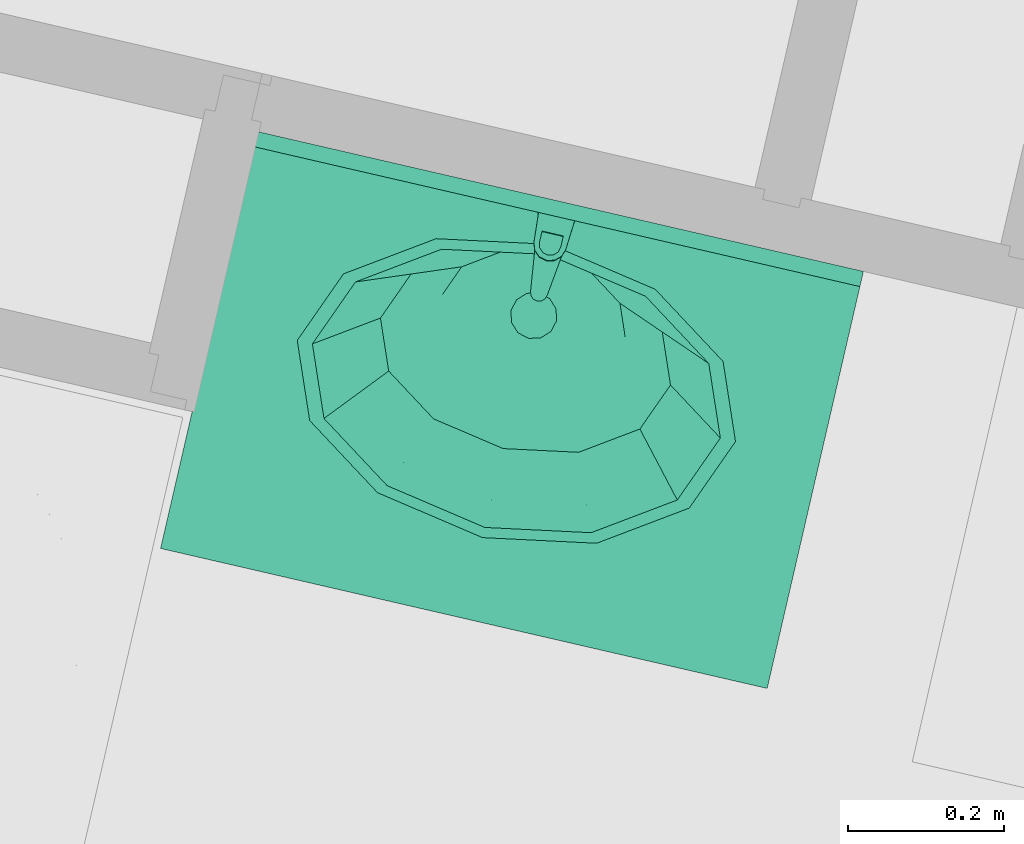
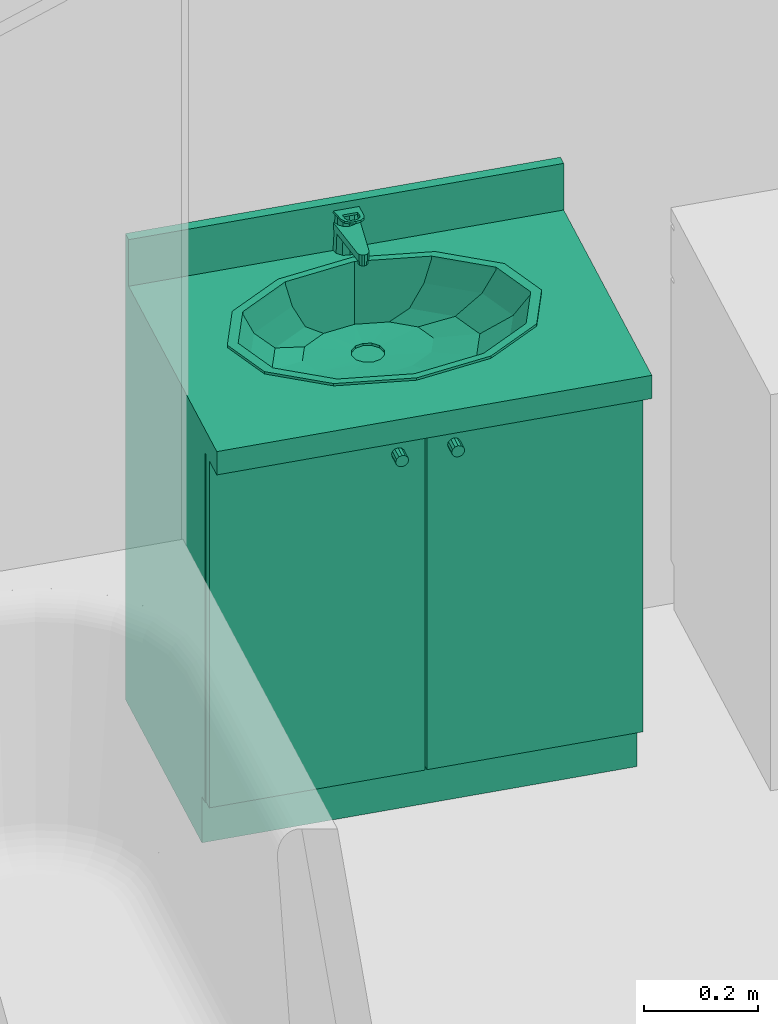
# One storey, part 78 of 90: 1 flow terminal.
"""IFC2X3 building model written with IfcOpenShell, lengths in metres."""

import ifcopenshell
import ifcopenshell.guid

model = None  # the IFC model being written
_history = None  # IfcOwnerHistory: only IFC2X3 demands one
_inside = {}  # id of a spatial element -> (the spatial element, [elements in it])
_under = {}  # id of a project, library or spatial element -> (it, [spatial elements below it])
_declared = {}  # id of a project -> (the project, [libraries it declares])
_typed = {}  # id of a type object -> (the type object, [elements of that type])
_made_of = {}  # id of a material, layer set ... -> (it, [elements and type objects made of it])


def new_model(schema):
    """Start an empty IFC model of exactly this schema.

    Asked for "IFC4X3", IfcOpenShell would pick the latest addendum, in which some entities
    have other attributes; the version numbers below select the first issue.
    IFC2X3 requires an IfcOwnerHistory on every rooted entity: one is made here for all.
    """
    global model, _history
    if schema == "IFC4X3":
        model = ifcopenshell.file(schema_version=(4, 3, 0, 0))
    else:
        model = ifcopenshell.file(schema=schema)
    _inside.clear()
    _under.clear()
    _declared.clear()
    _typed.clear()
    _made_of.clear()
    _history = None
    if model.schema == "IFC2X3":
        org = make("IfcOrganization", Name="unknown")
        user = make(
            "IfcPersonAndOrganization",
            ThePerson=make("IfcPerson", FamilyName="unknown"),
            TheOrganization=org,
        )
        app = make(
            "IfcApplication",
            ApplicationDeveloper=org,
            Version="unknown",
            ApplicationFullName="unknown",
            ApplicationIdentifier="unknown",
        )
        _history = make(
            "IfcOwnerHistory",
            OwningUser=user,
            OwningApplication=app,
            ChangeAction="ADDED",
            CreationDate=0,
        )
    return model


def make(cls, **values):
    """One entity of the class cls with the attributes given. An attribute that is None is left unset."""
    return model.create_entity(
        cls, **{name: value for name, value in values.items() if value is not None}
    )


def entity(cls, *values):
    """Any entity or typed value of the class cls, its attributes in the order of the schema. None: left unset."""
    e = model.create_entity(cls)
    for i, value in enumerate(values):
        if value is not None:
            e[i] = value
    return e


def rooted(cls, **values):
    """An entity with a GlobalId (a new one), such as an element, a storey or a relation."""
    return make(cls, GlobalId=ifcopenshell.guid.new(), OwnerHistory=_history, **values)


def si_unit(unit_type, name, prefix=None):
    """IfcSIUnit, for example si_unit("LENGTHUNIT", "METRE", prefix="MILLI")."""
    return make("IfcSIUnit", UnitType=unit_type, Prefix=prefix, Name=name)


def converted_unit(unit_type, name, factor, base, dimensions=None, offset=None):
    """IfcConversionBasedUnit, such as the inch: factor (a typed value) times the base unit."""
    return make(
        "IfcConversionBasedUnit"
        if offset is None
        else "IfcConversionBasedUnitWithOffset",
        ConversionOffset=offset,
        Dimensions=None
        if dimensions is None
        else entity("IfcDimensionalExponents", *dimensions),
        UnitType=unit_type,
        Name=name,
        ConversionFactor=make(
            "IfcMeasureWithUnit", ValueComponent=factor, UnitComponent=base
        ),
    )


def derived_unit(unit_type, elements):
    """IfcDerivedUnit: a product of units, each with its exponent."""
    return make(
        "IfcDerivedUnit",
        Elements=[
            make("IfcDerivedUnitElement", Unit=unit, Exponent=power)
            for unit, power in elements
        ],
        UnitType=unit_type,
    )


def money_unit(currency):
    """IfcMonetaryUnit."""
    return make("IfcMonetaryUnit", Currency=currency)


def assignment(units):
    """IfcUnitAssignment: the units of a project."""
    return None if units is None else make("IfcUnitAssignment", Units=units)


def point(xyz):
    """IfcCartesianPoint."""
    return None if xyz is None else make("IfcCartesianPoint", Coordinates=xyz)


def direction(xyz):
    """IfcDirection."""
    return None if xyz is None else make("IfcDirection", DirectionRatios=xyz)


def frame(location, z_axis=None, x_axis=None):
    """IfcAxis2Placement3D, a coordinate frame: its origin and axes. An axis left out is left unset."""
    return make(
        "IfcAxis2Placement3D",
        Location=point(location),
        Axis=direction(z_axis),
        RefDirection=direction(x_axis),
    )


def origin_with_axes():
    """The frame at (0, 0, 0) with the z axis (0, 0, 1) and the x axis (1, 0, 0) written out."""
    return frame((0.0, 0.0, 0.0), z_axis=(0.0, 0.0, 1.0), x_axis=(1.0, 0.0, 0.0))


def place(relative_to, where):
    """IfcLocalPlacement: puts the frame where relative to a parent placement (None: the world)."""
    return make(
        "IfcLocalPlacement", PlacementRelTo=relative_to, RelativePlacement=where
    )


def context(
    kind, dimensions, precision=None, world=None, true_north=None, identifier=None
):
    """IfcGeometricRepresentationContext, for example the 3D "Model" context."""
    return make(
        "IfcGeometricRepresentationContext",
        ContextIdentifier=identifier,
        ContextType=kind,
        CoordinateSpaceDimension=dimensions,
        Precision=precision,
        WorldCoordinateSystem=world,
        TrueNorth=true_north,
    )


def subcontext(parent, identifier, kind, view, scale=None):
    """IfcGeometricRepresentationSubContext, for example "Body" below "Model"."""
    return make(
        "IfcGeometricRepresentationSubContext",
        ContextIdentifier=identifier,
        ContextType=kind,
        ParentContext=parent,
        TargetScale=scale,
        TargetView=view,
    )


def project(units=None, contexts=None):
    """IfcProject with its units and contexts."""
    return rooted(
        "IfcProject",
        Name="project",
        RepresentationContexts=contexts,
        UnitsInContext=assignment(units),
    )


def spatial(cls, under=None, at=None, **own):
    """A site, building, storey or space (cls), placed at a placement, below another one or the project."""
    s = rooted(cls, ObjectPlacement=at, **own)
    if under is not None:
        _under.setdefault(under.id(), (under, []))[1].append(s)
    return s


def faces_of(points, faces, orient=None, outer=None):
    """IfcFace entities. A face is a list of loops; a loop is a list of indices into points, from 0.

    orient and outer hold one flag for each loop. By default every Orientation is true, the
    first loop of a face is its IfcFaceOuterBound and the others are IfcFaceBound.
    """
    made = []
    for i, loops in enumerate(faces):
        bounds = []
        for j, loop in enumerate(loops):
            is_outer = j == 0 if outer is None else outer[i][j]
            bounds.append(
                make(
                    "IfcFaceOuterBound" if is_outer else "IfcFaceBound",
                    Bound=make("IfcPolyLoop", Polygon=[points[k] for k in loop]),
                    Orientation=True if orient is None else orient[i][j],
                )
            )
        made.append(make("IfcFace", Bounds=bounds))
    return made


def open_shell(faces, orient=None, outer=None):
    """The faces of one IfcOpenShell. surface_model builds it on its shared points."""
    return ("IfcOpenShell", faces, orient, outer)


def faceted_brep(points, faces, orient=None, outer=None, voids=None):
    """IfcFacetedBrep: a solid bounded by flat faces; with voids (closed shells), ...WithVoids."""
    shared = [point(p) for p in points]
    hull = make("IfcClosedShell", CfsFaces=faces_of(shared, faces, orient, outer))
    if voids is None:
        return make("IfcFacetedBrep", Outer=hull)
    return make(
        "IfcFacetedBrepWithVoids",
        Outer=hull,
        Voids=[
            make(cls, CfsFaces=faces_of(shared, fs, o, b)) for cls, fs, o, b in voids
        ],
    )


def surface_model(cls, points, shells):
    """IfcFaceBasedSurfaceModel or IfcShellBasedSurfaceModel (cls): surfaces that need not close."""
    shared = [point(p) for p in points]
    made = [make(c, CfsFaces=faces_of(shared, fs, o, b)) for c, fs, o, b in shells]
    if cls == "IfcFaceBasedSurfaceModel":
        return make(cls, FbsmFaces=made)
    return make(cls, SbsmBoundary=made)


def shape(context_of_items, identifier, shape_type, items):
    """IfcShapeRepresentation: the items that make up one representation, for example the "Body"."""
    return make(
        "IfcShapeRepresentation",
        ContextOfItems=context_of_items,
        RepresentationIdentifier=identifier,
        RepresentationType=shape_type,
        Items=items,
    )


def source(mapping_origin, context_of_items, identifier, shape_type, items):
    """IfcRepresentationMap: a shape defined once, which mapped items show again and again."""
    return make(
        "IfcRepresentationMap",
        MappingOrigin=mapping_origin,
        MappedRepresentation=shape(context_of_items, identifier, shape_type, items),
    )


def transform(
    local_origin,
    x_axis=None,
    y_axis=None,
    z_axis=None,
    scale=None,
    scale2=None,
    scale3=None,
    uniform=True,
):
    """IfcCartesianTransformationOperator3D, or its non-uniform kind. x_axis, y_axis, z_axis: its Axis1, 2, 3."""
    if uniform:
        return make(
            "IfcCartesianTransformationOperator3D",
            Axis1=direction(x_axis),
            Axis2=direction(y_axis),
            LocalOrigin=point(local_origin),
            Scale=scale,
            Axis3=direction(z_axis),
        )
    return make(
        "IfcCartesianTransformationOperator3DnonUniform",
        Axis1=direction(x_axis),
        Axis2=direction(y_axis),
        LocalOrigin=point(local_origin),
        Scale=scale,
        Axis3=direction(z_axis),
        Scale2=scale2,
        Scale3=scale3,
    )


def mapped(mapping_source, mapping_target):
    """IfcMappedItem: shows the shape of a source again, moved by a transform."""
    return make(
        "IfcMappedItem", MappingSource=mapping_source, MappingTarget=mapping_target
    )


def made_of(thing, what):
    """Note that an element or type object is made of a material, layer set ...; save() writes the relation."""
    if what is not None:
        _made_of.setdefault(what.id(), (what, []))[1].append(thing)
    return thing


def type_object(cls, material=None, **own):
    """A type object (cls), such as IfcWallType, which elements share."""
    return made_of(rooted(cls, **own), material)


def element(
    cls,
    number,
    at=None,
    inside=None,
    cuts=None,
    type_object=None,
    material=None,
    context=None,
    identifier="Body",
    shape_type=None,
    held_by="IfcProductDefinitionShape",
    body=None,
    shapes=None,
    **own,
):
    """One element of the class cls, such as IfcWall. Its Tag is "e" and its number.

    at: its placement. inside: the storey or other place that contains it. cuts: it is an
    opening in that element (IfcRelVoidsElement). A single representation is given by context,
    identifier, shape_type and body (its items); several are given by shapes. held_by: the class
    of the entity that holds the representations. save() writes the other relations.
    """
    e = rooted(cls, Tag="e%d" % number, ObjectPlacement=at, **own)
    if body is not None:
        shapes = [shape(context, identifier, shape_type, body)]
    if shapes is not None:
        e.Representation = make(held_by, Representations=shapes)
    if inside is not None:
        _inside.setdefault(inside.id(), (inside, []))[1].append(e)
    if cuts is not None:
        rooted(
            "IfcRelVoidsElement", RelatingBuildingElement=cuts, RelatedOpeningElement=e
        )
    if type_object is not None:
        _typed.setdefault(type_object.id(), (type_object, []))[1].append(e)
    return made_of(e, material)


def aggregate(whole, parts):
    """IfcRelAggregates: a whole, such as a stair, and the parts it consists of."""
    return rooted("IfcRelAggregates", RelatingObject=whole, RelatedObjects=parts)


def save(model, path):
    """Write the relations noted so far, then the file.

    IfcRelAggregates (storeys below a building ...), IfcRelContainedInSpatialStructure (elements
    in a storey), IfcRelDefinesByType, IfcRelAssociatesMaterial and IfcRelDeclares: one each for
    every whole, place, type object, material and project.
    """
    for whole, parts in _under.values():
        aggregate(whole, parts)
    for where, things in _inside.values():
        rooted(
            "IfcRelContainedInSpatialStructure",
            RelatedElements=things,
            RelatingStructure=where,
        )
    for kind, things in _typed.values():
        rooted("IfcRelDefinesByType", RelatedObjects=things, RelatingType=kind)
    for what, things in _made_of.values():
        rooted("IfcRelAssociatesMaterial", RelatedObjects=things, RelatingMaterial=what)
    for by, libraries in _declared.values():
        rooted("IfcRelDeclares", RelatingContext=by, RelatedDefinitions=libraries)
    model.write(path)


model = new_model("IFC2X3")

# Units and contexts
model_context = context("Model", 3, precision=1e-05, world=origin_with_axes(), true_north=direction((0.0, 1.0)))
body_context = subcontext(model_context, "Body", "Model", "MODEL_VIEW")
ifc_project = project(units=[si_unit("LENGTHUNIT", "METRE"), si_unit("AREAUNIT", "SQUARE_METRE"), si_unit("VOLUMEUNIT", "CUBIC_METRE"), converted_unit("PLANEANGLEUNIT", "DEGREE", entity("IfcPlaneAngleMeasure", 0.0174532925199), si_unit("PLANEANGLEUNIT", "RADIAN"), dimensions=[0, 0, 0, 0, 0, 0, 0]), si_unit("SOLIDANGLEUNIT", "STERADIAN"), money_unit("EUR"), converted_unit("TIMEUNIT", "Year", entity("IfcTimeMeasure", 31556926.0), si_unit("TIMEUNIT", "SECOND"), dimensions=[0, 0, 1, 0, 0, 0, 0]), si_unit("MASSUNIT", "GRAM", prefix="KILO"), si_unit("THERMODYNAMICTEMPERATUREUNIT", "DEGREE_CELSIUS"), si_unit("LUMINOUSINTENSITYUNIT", "LUMEN"), si_unit("ENERGYUNIT", "JOULE", prefix="MEGA"), derived_unit("THERMALCONDUCTANCEUNIT", [(si_unit("POWERUNIT", "WATT"), 1), (si_unit("LENGTHUNIT", "METRE"), -1), (si_unit("THERMODYNAMICTEMPERATUREUNIT", "KELVIN"), -1)]), derived_unit("SPECIFICHEATCAPACITYUNIT", [(si_unit("ENERGYUNIT", "JOULE"), 1), (si_unit("MASSUNIT", "GRAM", prefix="KILO"), -1), (si_unit("THERMODYNAMICTEMPERATUREUNIT", "KELVIN"), -1)]), derived_unit("MASSDENSITYUNIT", [(si_unit("MASSUNIT", "GRAM", prefix="KILO"), 1), (si_unit("VOLUMEUNIT", "CUBIC_METRE"), -1)])], contexts=[model_context])

# Site, building, storey
site_placement = place(None, origin_with_axes())
site = spatial("IfcSite", under=ifc_project, at=site_placement, Name="Site", CompositionType="ELEMENT")
building_placement = place(site_placement, origin_with_axes())
building = spatial("IfcBuilding", under=site, at=building_placement, Name="Bâtiment", CompositionType="ELEMENT")
storey_placement = place(building_placement, frame((0.0, 0.0, 2.72), z_axis=(0.0, 0.0, 1.0), x_axis=(1.0, 0.0, 0.0)))
storey = spatial("IfcBuildingStorey", under=building, at=storey_placement, Name="R+1", CompositionType="ELEMENT", Elevation=2.72)

# Flow terminal
sanitary_terminal_type = type_object("IfcSanitaryTerminalType", Name="Lavabo sur meuble 23", PredefinedType="NOTDEFINED")
shared_shape = source(origin_with_axes(), body_context, "Body", "SurfaceModel", [
    faceted_brep([(0.0, 0.09, 0.0), (0.0, 0.09, 0.1), (-0.8, 0.09, 0.1), (-0.8, 0.09, 0.0), (0.0, 0.55, 0.0), (0.0, 0.55, 0.1), (-0.8, 0.55, 0.1), (-0.8, 0.55, 0.0)], [[[0, 1, 2, 3]], [[4, 5, 1, 0]], [[1, 5, 6, 2]], [[3, 2, 6, 7]], [[0, 3, 7, 4]], [[7, 6, 5, 4]]]),
    faceted_brep([(0.0, 0.07, 0.1), (0.0, 0.07, 0.12), (-0.02, 0.07, 0.12), (-0.02, 0.07, 0.1), (0.0, 0.55, 0.1), (0.0, 0.55, 0.12), (-0.02, 0.55, 0.12), (-0.78, 0.55, 0.12), (-0.8, 0.55, 0.12), (-0.8, 0.07, 0.12), (-0.78, 0.07, 0.12), (-0.78, 0.07, 0.1), (-0.8, 0.07, 0.1), (-0.8, 0.55, 0.1), (-0.78, 0.55, 0.1), (-0.02, 0.55, 0.1)], [[[0, 1, 2, 3]], [[4, 5, 1, 0]], [[1, 5, 6, 7, 8, 9, 10, 2]], [[3, 2, 10, 11]], [[0, 3, 11, 12, 13, 14, 15, 4]], [[15, 6, 5, 4]], [[14, 7, 6, 15]], [[13, 8, 7, 14]], [[12, 9, 8, 13]], [[11, 10, 9, 12]]]),
    faceted_brep([(0.0, 0.07, 0.12), (0.0, 0.07, 0.85), (-0.02, 0.07, 0.85), (-0.02, 0.07, 0.12), (0.0, 0.55, 0.12), (0.0, 0.55, 0.85), (-0.8, 0.55, 0.85), (-0.8, 0.07, 0.85), (-0.78, 0.07, 0.85), (-0.78, 0.53, 0.85), (-0.02, 0.53, 0.85), (-0.02, 0.53, 0.12), (-0.78, 0.53, 0.12), (-0.78, 0.07, 0.12), (-0.8, 0.07, 0.12), (-0.8, 0.55, 0.12)], [[[0, 1, 2, 3]], [[4, 5, 1, 0]], [[1, 5, 6, 7, 8, 9, 10, 2]], [[3, 2, 10, 11]], [[0, 3, 11, 12, 13, 14, 15, 4]], [[15, 6, 5, 4]], [[14, 7, 6, 15]], [[13, 8, 7, 14]], [[12, 9, 8, 13]], [[11, 10, 9, 12]]]),
    faceted_brep([(-0.78, 0.07, 0.323333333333), (-0.78, 0.07, 0.343333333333), (-0.78, 0.53, 0.343333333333), (-0.78, 0.53, 0.323333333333), (-0.02, 0.07, 0.323333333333), (-0.02, 0.07, 0.343333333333), (-0.02, 0.53, 0.343333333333), (-0.02, 0.53, 0.323333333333)], [[[0, 1, 2, 3]], [[4, 5, 1, 0]], [[1, 5, 6, 2]], [[3, 2, 6, 7]], [[0, 3, 7, 4]], [[7, 6, 5, 4]]]),
    faceted_brep([(-0.78, 0.07, 0.566666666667), (-0.78, 0.07, 0.586666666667), (-0.78, 0.53, 0.586666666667), (-0.78, 0.53, 0.566666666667), (-0.02, 0.07, 0.566666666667), (-0.02, 0.07, 0.586666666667), (-0.02, 0.53, 0.586666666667), (-0.02, 0.53, 0.566666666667)], [[[0, 1, 2, 3]], [[4, 5, 1, 0]], [[1, 5, 6, 2]], [[3, 2, 6, 7]], [[0, 3, 7, 4]], [[7, 6, 5, 4]]]),
    faceted_brep([(0.0, 0.55, 0.85), (0.0, 0.0, 0.85), (-0.8, 0.0, 0.85), (-0.8, 0.55, 0.85), (-0.535, 0.144115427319, 0.85), (-0.4, 0.12, 0.85), (-0.265, 0.144115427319, 0.85), (-0.166173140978, 0.21, 0.85), (-0.13, 0.3, 0.85), (-0.166173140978, 0.39, 0.85), (-0.265, 0.455884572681, 0.85), (-0.4, 0.48, 0.85), (-0.535, 0.455884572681, 0.85), (-0.633826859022, 0.39, 0.85), (-0.67, 0.3, 0.85), (-0.633826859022, 0.21, 0.85), (0.0, 0.55, 0.9), (0.0, 0.0, 0.9), (-0.8, 0.0, 0.9), (-0.8, 0.55, 0.9), (-0.4, 0.12, 0.9), (-0.535, 0.144115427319, 0.9), (-0.265, 0.144115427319, 0.9), (-0.166173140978, 0.21, 0.9), (-0.13, 0.3, 0.9), (-0.166173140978, 0.39, 0.9), (-0.265, 0.455884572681, 0.9), (-0.4, 0.48, 0.9), (-0.535, 0.455884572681, 0.9), (-0.633826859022, 0.39, 0.9), (-0.67, 0.3, 0.9), (-0.633826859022, 0.21, 0.9)], [[[0, 1, 2, 3], [4, 5, 6, 7, 8, 9, 10, 11, 12, 13, 14, 15]], [[1, 0, 16, 17]], [[2, 1, 17, 18]], [[3, 2, 18, 19]], [[0, 3, 19, 16]], [[20, 5, 4, 21]], [[22, 6, 5, 20]], [[23, 7, 6, 22]], [[24, 8, 7, 23]], [[25, 9, 8, 24]], [[26, 10, 9, 25]], [[27, 11, 10, 26]], [[28, 12, 11, 27]], [[29, 13, 12, 28]], [[30, 14, 13, 29]], [[31, 15, 14, 30]], [[21, 4, 15, 31]], [[18, 17, 16, 19], [28, 27, 26, 25, 24, 23, 22, 20, 21, 31, 30, 29]]]),
    faceted_brep([(0.0, 0.53, 0.9), (0.0, 0.53, 1.0), (-0.8, 0.53, 1.0), (-0.8, 0.53, 0.9), (0.0, 0.55, 0.9), (0.0, 0.55, 1.0), (-0.8, 0.55, 1.0), (-0.8, 0.55, 0.9)], [[[0, 1, 2, 3]], [[4, 5, 1, 0]], [[1, 5, 6, 2]], [[3, 2, 6, 7]], [[0, 3, 7, 4]], [[7, 6, 5, 4]]]),
    faceted_brep([(-0.689, 0.3, 0.905), (-0.650281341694, 0.396691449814, 0.905), (-0.650281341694, 0.396691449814, 0.9), (-0.689, 0.3, 0.9), (-0.650281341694, 0.203308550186, 0.905), (-0.5445, 0.132525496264, 0.905), (-0.4, 0.106617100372, 0.905), (-0.2555, 0.132525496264, 0.905), (-0.149718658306, 0.203308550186, 0.905), (-0.111, 0.3, 0.905), (-0.149718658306, 0.396691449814, 0.905), (-0.2555, 0.467474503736, 0.905), (-0.4, 0.493382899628, 0.905), (-0.5445, 0.467474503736, 0.905), (-0.669, 0.3, 0.905), (-0.632960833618, 0.39, 0.905), (-0.5345, 0.455884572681, 0.905), (-0.4, 0.48, 0.905), (-0.2655, 0.455884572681, 0.905), (-0.167039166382, 0.39, 0.905), (-0.131, 0.3, 0.905), (-0.167039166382, 0.21, 0.905), (-0.2655, 0.144115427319, 0.905), (-0.4, 0.12, 0.905), (-0.5345, 0.144115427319, 0.905), (-0.632960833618, 0.21, 0.905), (-0.5445, 0.467474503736, 0.9), (-0.4, 0.493382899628, 0.9), (-0.2555, 0.467474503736, 0.9), (-0.149718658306, 0.396691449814, 0.9), (-0.111, 0.3, 0.9), (-0.149718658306, 0.203308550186, 0.9), (-0.2555, 0.132525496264, 0.9), (-0.4, 0.106617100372, 0.9), (-0.5445, 0.132525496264, 0.9), (-0.650281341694, 0.203308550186, 0.9), (-0.669, 0.3, 0.9), (-0.632960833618, 0.21, 0.9), (-0.5345, 0.144115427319, 0.9), (-0.4, 0.12, 0.9), (-0.2655, 0.144115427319, 0.9), (-0.167039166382, 0.21, 0.9), (-0.131, 0.3, 0.9), (-0.167039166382, 0.39, 0.9), (-0.2655, 0.455884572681, 0.9), (-0.4, 0.48, 0.9), (-0.5345, 0.455884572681, 0.9), (-0.632960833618, 0.39, 0.9)], [[[0, 1, 2, 3]], [[0, 4, 5, 6, 7, 8, 9, 10, 11, 12, 13, 1], [14, 15, 16, 17, 18, 19, 20, 21, 22, 23, 24, 25]], [[1, 13, 26, 2]], [[3, 2, 26, 27, 28, 29, 30, 31, 32, 33, 34, 35], [36, 37, 38, 39, 40, 41, 42, 43, 44, 45, 46, 47]], [[4, 0, 3, 35]], [[5, 4, 35, 34]], [[6, 5, 34, 33]], [[7, 6, 33, 32]], [[8, 7, 32, 31]], [[9, 8, 31, 30]], [[10, 9, 30, 29]], [[11, 10, 29, 28]], [[12, 11, 28, 27]], [[13, 12, 27, 26]], [[15, 14, 36, 47]], [[16, 15, 47, 46]], [[17, 16, 46, 45]], [[18, 17, 45, 44]], [[19, 18, 44, 43]], [[20, 19, 43, 42]], [[21, 20, 42, 41]], [[22, 21, 41, 40]], [[23, 22, 40, 39]], [[24, 23, 39, 38]], [[25, 24, 38, 37]], [[14, 25, 37, 36]]]),
    surface_model("IfcShellBasedSurfaceModel", [(-0.4, 0.48, 0.9), (-0.5345, 0.455884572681, 0.9), (-0.52105, 0.458296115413, 0.848), (-0.4, 0.48, 0.848), (-0.632960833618, 0.39, 0.9), (-0.609664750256, 0.399, 0.848), (-0.2655, 0.455884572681, 0.9), (-0.27895, 0.458296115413, 0.848), (-0.669, 0.3, 0.9), (-0.6421, 0.318, 0.848), (-0.167039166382, 0.39, 0.9), (-0.190335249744, 0.399, 0.848), (-0.632960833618, 0.21, 0.9), (-0.609664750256, 0.237, 0.848), (-0.131, 0.3, 0.9), (-0.1579, 0.318, 0.848), (-0.5345, 0.144115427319, 0.9), (-0.52105, 0.177703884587, 0.848), (-0.167039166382, 0.21, 0.9), (-0.190335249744, 0.237, 0.848), (-0.4, 0.12, 0.9), (-0.4, 0.156, 0.848), (-0.2655, 0.144115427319, 0.9), (-0.27895, 0.177703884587, 0.848)], [open_shell([[[0, 1, 2, 3]], [[1, 4, 5, 2]], [[6, 0, 3, 7]], [[4, 8, 9, 5]], [[10, 6, 7, 11]], [[8, 12, 13, 9]], [[14, 10, 11, 15]], [[12, 16, 17, 13]], [[18, 14, 15, 19]], [[16, 20, 21, 17]], [[22, 18, 19, 23]], [[20, 22, 23, 21]]])]),
    surface_model("IfcShellBasedSurfaceModel", [(-0.4, 0.48, 0.848), (-0.52105, 0.458296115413, 0.848), (-0.4956295, 0.462853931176, 0.796), (-0.4, 0.48, 0.796), (-0.609664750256, 0.399, 0.848), (-0.565635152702, 0.41601, 0.796), (-0.27895, 0.458296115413, 0.848), (-0.3043705, 0.462853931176, 0.796), (-0.6421, 0.318, 0.848), (-0.591259, 0.35202, 0.796), (-0.190335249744, 0.399, 0.848), (-0.234364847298, 0.41601, 0.796), (-0.609664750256, 0.237, 0.848), (-0.565635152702, 0.28803, 0.796), (-0.1579, 0.318, 0.848), (-0.208741, 0.35202, 0.796), (-0.52105, 0.177703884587, 0.848), (-0.4956295, 0.241186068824, 0.796), (-0.190335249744, 0.237, 0.848), (-0.234364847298, 0.28803, 0.796), (-0.4, 0.156, 0.848), (-0.4, 0.22404, 0.796), (-0.27895, 0.177703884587, 0.848), (-0.3043705, 0.241186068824, 0.796)], [open_shell([[[0, 1, 2, 3]], [[1, 4, 5, 2]], [[6, 0, 3, 7]], [[4, 8, 9, 5]], [[10, 6, 7, 11]], [[8, 12, 13, 9]], [[14, 10, 11, 15]], [[12, 16, 17, 13]], [[18, 14, 15, 19]], [[16, 20, 21, 17]], [[22, 18, 19, 23]], [[20, 22, 23, 21]]])]),
    surface_model("IfcShellBasedSurfaceModel", [(-0.4, 0.48, 0.796), (-0.4956295, 0.462853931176, 0.796), (-0.460246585, 0.469197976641, 0.77), (-0.4, 0.48, 0.77), (-0.565635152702, 0.41601, 0.796), (-0.504350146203, 0.4396863, 0.77), (-0.3043705, 0.462853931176, 0.796), (-0.339753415, 0.469197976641, 0.77), (-0.591259, 0.35202, 0.796), (-0.52049317, 0.3993726, 0.77), (-0.234364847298, 0.41601, 0.796), (-0.295649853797, 0.4396863, 0.77), (-0.565635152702, 0.28803, 0.796), (-0.504350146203, 0.3590589, 0.77), (-0.208741, 0.35202, 0.796), (-0.27950683, 0.3993726, 0.77), (-0.4956295, 0.241186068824, 0.796), (-0.460246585, 0.329547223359, 0.77), (-0.234364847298, 0.28803, 0.796), (-0.295649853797, 0.3590589, 0.77), (-0.4, 0.22404, 0.796), (-0.4, 0.3187452, 0.77), (-0.3043705, 0.241186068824, 0.796), (-0.339753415, 0.329547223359, 0.77)], [open_shell([[[0, 1, 2, 3]], [[1, 4, 5, 2]], [[6, 0, 3, 7]], [[4, 8, 9, 5]], [[10, 6, 7, 11]], [[8, 12, 13, 9]], [[14, 10, 11, 15]], [[12, 16, 17, 13]], [[18, 14, 15, 19]], [[16, 20, 21, 17]], [[22, 18, 19, 23]], [[20, 22, 23, 21]]])]),
    surface_model("IfcShellBasedSurfaceModel", [(-0.4, 0.48, 0.77), (-0.460246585, 0.469197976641, 0.77), (-0.415, 0.425353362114, 0.763), (-0.425980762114, 0.4143726, 0.763), (-0.4, 0.4293726, 0.763), (-0.504350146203, 0.4396863, 0.77), (-0.339753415, 0.469197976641, 0.77), (-0.43, 0.3993726, 0.763), (-0.385, 0.425353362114, 0.763), (-0.52049317, 0.3993726, 0.77), (-0.295649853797, 0.4396863, 0.77), (-0.425980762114, 0.3843726, 0.763), (-0.374019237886, 0.4143726, 0.763), (-0.504350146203, 0.3590589, 0.77), (-0.27950683, 0.3993726, 0.77), (-0.415, 0.373391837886, 0.763), (-0.37, 0.3993726, 0.763), (-0.460246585, 0.329547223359, 0.77), (-0.295649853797, 0.3590589, 0.77), (-0.4, 0.3693726, 0.763), (-0.374019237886, 0.3843726, 0.763), (-0.4, 0.3187452, 0.77), (-0.339753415, 0.329547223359, 0.77), (-0.385, 0.373391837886, 0.763)], [open_shell([[[0, 1, 2]], [[1, 3, 2]], [[0, 2, 4]], [[1, 5, 3]], [[6, 0, 4]], [[5, 7, 3]], [[6, 4, 8]], [[5, 9, 7]], [[10, 6, 8]], [[9, 11, 7]], [[10, 8, 12]], [[9, 13, 11]], [[14, 10, 12]], [[13, 15, 11]], [[14, 12, 16]], [[13, 17, 15]], [[18, 14, 16]], [[17, 19, 15]], [[18, 16, 20]], [[17, 21, 19]], [[22, 18, 20]], [[21, 23, 19]], [[22, 20, 23]], [[21, 22, 23]]])]),
    surface_model("IfcShellBasedSurfaceModel", [(-0.43, 0.3993726, 0.763), (-0.425980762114, 0.4143726, 0.763), (-0.425980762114, 0.4143726, 0.758), (-0.43, 0.3993726, 0.758), (-0.415, 0.425353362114, 0.763), (-0.415, 0.425353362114, 0.758), (-0.4, 0.4293726, 0.758), (-0.385, 0.425353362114, 0.758), (-0.374019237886, 0.4143726, 0.758), (-0.37, 0.3993726, 0.758), (-0.374019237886, 0.3843726, 0.758), (-0.385, 0.373391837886, 0.758), (-0.4, 0.3693726, 0.758), (-0.415, 0.373391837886, 0.758), (-0.425980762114, 0.3843726, 0.758), (-0.425980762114, 0.3843726, 0.763), (-0.4, 0.4293726, 0.763), (-0.385, 0.425353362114, 0.763), (-0.374019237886, 0.4143726, 0.763), (-0.37, 0.3993726, 0.763), (-0.374019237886, 0.3843726, 0.763), (-0.385, 0.373391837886, 0.763), (-0.4, 0.3693726, 0.763), (-0.415, 0.373391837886, 0.763)], [open_shell([[[0, 1, 2, 3]], [[1, 4, 5, 2]], [[3, 2, 5, 6, 7, 8, 9, 10, 11, 12, 13, 14]], [[15, 0, 3, 14]], [[4, 16, 6, 5]], [[16, 17, 7, 6]], [[17, 18, 8, 7]], [[18, 19, 9, 8]], [[19, 20, 10, 9]], [[20, 21, 11, 10]], [[21, 22, 12, 11]], [[22, 23, 13, 12]], [[23, 15, 14, 13]]])]),
    faceted_brep([(-0.4125, 0.554150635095, 0.9), (-0.410587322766, 0.550837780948, 0.976507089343), (-0.4, 0.553701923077, 0.975961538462), (-0.4, 0.5575, 0.9), (-0.421650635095, 0.545, 0.9), (-0.418273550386, 0.543050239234, 0.977990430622), (-0.421, 0.5325, 0.98), (-0.418100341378, 0.522049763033, 0.981990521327), (-0.410414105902, 0.514462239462, 0.983435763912), (-0.4, 0.511698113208, 0.983962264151), (-0.389585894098, 0.514462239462, 0.983435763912), (-0.381899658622, 0.522049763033, 0.981990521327), (-0.379, 0.5325, 0.98), (-0.381726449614, 0.543050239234, 0.977990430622), (-0.389412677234, 0.550837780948, 0.976507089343), (-0.3875, 0.554150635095, 0.9), (-0.378349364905, 0.545, 0.9), (-0.375, 0.5325, 0.9), (-0.378349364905, 0.52, 0.9), (-0.3875, 0.510849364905, 0.9), (-0.4, 0.5075, 0.9), (-0.4125, 0.510849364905, 0.9), (-0.421650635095, 0.52, 0.9), (-0.425, 0.5325, 0.9)], [[[0, 1, 2, 3]], [[4, 5, 1, 0]], [[1, 5, 6, 7, 8, 9, 10, 11, 12, 13, 14, 2]], [[3, 2, 14, 15]], [[0, 3, 15, 16, 17, 18, 19, 20, 21, 22, 23, 4]], [[23, 6, 5, 4]], [[22, 7, 6, 23]], [[21, 8, 7, 22]], [[20, 9, 8, 21]], [[19, 10, 9, 20]], [[18, 11, 10, 19]], [[17, 12, 11, 18]], [[16, 13, 12, 17]], [[15, 14, 13, 16]]]),
    faceted_brep([(-0.409, 0.4295, 0.935), (-0.409, 0.4295, 0.945), (-0.407794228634, 0.434, 0.945), (-0.407794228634, 0.434, 0.935), (-0.407794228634, 0.425, 0.935), (-0.407794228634, 0.425, 0.945), (-0.4045, 0.421705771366, 0.945), (-0.4, 0.4205, 0.945), (-0.3955, 0.421705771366, 0.945), (-0.392205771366, 0.425, 0.945), (-0.391, 0.4295, 0.945), (-0.392205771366, 0.434, 0.945), (-0.3955, 0.437294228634, 0.945), (-0.4, 0.4385, 0.945), (-0.4045, 0.437294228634, 0.945), (-0.4045, 0.437294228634, 0.935), (-0.4, 0.4385, 0.935), (-0.3955, 0.437294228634, 0.935), (-0.392205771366, 0.434, 0.935), (-0.391, 0.4295, 0.935), (-0.392205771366, 0.425, 0.935), (-0.3955, 0.421705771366, 0.935), (-0.4, 0.4205, 0.935), (-0.4045, 0.421705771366, 0.935)], [[[0, 1, 2, 3]], [[4, 5, 1, 0]], [[1, 5, 6, 7, 8, 9, 10, 11, 12, 13, 14, 2]], [[3, 2, 14, 15]], [[0, 3, 15, 16, 17, 18, 19, 20, 21, 22, 23, 4]], [[23, 6, 5, 4]], [[22, 7, 6, 23]], [[21, 8, 7, 22]], [[20, 9, 8, 21]], [[19, 10, 9, 20]], [[18, 11, 10, 19]], [[17, 12, 11, 18]], [[16, 13, 12, 17]], [[15, 14, 13, 16]]]),
    faceted_brep([(-0.387128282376, 0.552756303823, 0.96), (-0.40000000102, 0.556499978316, 0.96), (-0.412871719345, 0.552756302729, 0.96), (-0.421727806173, 0.542693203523, 0.96), (-0.423805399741, 0.529450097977, 0.96), (-0.410912, 0.4281117, 0.96), (-0.409028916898, 0.423216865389, 0.96), (-0.405093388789, 0.419750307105, 0.96), (-0.400000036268, 0.41850003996, 0.96), (-0.394906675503, 0.419750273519, 0.96), (-0.390971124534, 0.423216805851, 0.96), (-0.389088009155, 0.428111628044, 0.96), (-0.3761946, 0.5294501, 0.96), (-0.378272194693, 0.54269320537, 0.96), (-0.411, 0.551552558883, 0.96), (-0.4, 0.5545, 0.96), (-0.389, 0.551552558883, 0.96), (-0.380947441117, 0.5435, 0.96), (-0.378, 0.5325, 0.96), (-0.380947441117, 0.5215, 0.96), (-0.389, 0.513447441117, 0.96), (-0.4, 0.5105, 0.96), (-0.411, 0.513447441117, 0.96), (-0.419052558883, 0.5215, 0.96), (-0.422, 0.5325, 0.96), (-0.419052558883, 0.5435, 0.96), (-0.387128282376, 0.552756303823, 0.945), (-0.40000000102, 0.556499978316, 0.945), (-0.412871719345, 0.552756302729, 0.945), (-0.421727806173, 0.542693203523, 0.945), (-0.423805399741, 0.529450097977, 0.945), (-0.410912, 0.4281117, 0.945), (-0.409028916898, 0.423216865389, 0.945), (-0.405093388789, 0.419750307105, 0.945), (-0.400000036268, 0.41850003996, 0.945), (-0.394906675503, 0.419750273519, 0.945), (-0.390971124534, 0.423216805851, 0.945), (-0.389088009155, 0.428111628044, 0.945), (-0.3761946, 0.5294501, 0.945), (-0.378272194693, 0.54269320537, 0.945), (-0.4, 0.55525, 0.945), (-0.411375, 0.552202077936, 0.945), (-0.388625, 0.552202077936, 0.945), (-0.380297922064, 0.543875, 0.945), (-0.37725, 0.5325, 0.945), (-0.380297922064, 0.521125, 0.945), (-0.388625, 0.512797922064, 0.945), (-0.4, 0.50975, 0.945), (-0.411375, 0.512797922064, 0.945), (-0.419702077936, 0.521125, 0.945), (-0.42275, 0.5325, 0.945), (-0.419702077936, 0.543875, 0.945)], [[[0, 1, 2, 3, 4, 5, 6, 7, 8, 9, 10, 11, 12, 13], [14, 15, 16, 17, 18, 19, 20, 21, 22, 23, 24, 25]], [[26, 27, 1, 0]], [[27, 28, 2, 1]], [[28, 29, 3, 2]], [[29, 30, 4, 3]], [[30, 31, 5, 4]], [[31, 32, 6, 5]], [[32, 33, 7, 6]], [[33, 34, 8, 7]], [[34, 35, 9, 8]], [[35, 36, 10, 9]], [[36, 37, 11, 10]], [[37, 38, 12, 11]], [[38, 39, 13, 12]], [[39, 26, 0, 13]], [[40, 15, 14, 41]], [[42, 16, 15, 40]], [[16, 42, 43, 17]], [[17, 43, 44, 18]], [[18, 44, 45, 19]], [[19, 45, 46, 20]], [[20, 46, 47, 21]], [[48, 22, 21, 47]], [[49, 23, 22, 48]], [[50, 24, 23, 49]], [[51, 25, 24, 50]], [[41, 14, 25, 51]], [[34, 33, 32, 31, 30, 29, 28, 27, 26, 39, 38, 37, 36, 35], [48, 47, 46, 45, 44, 43, 42, 40, 41, 51, 50, 49]]]),
    faceted_brep([(-0.423893, 0.53080743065, 0.980322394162), (-0.423893, 0.531555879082, 0.984251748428), (-0.421296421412, 0.544023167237, 0.981877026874), (-0.421296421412, 0.543274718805, 0.977947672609), (-0.420945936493, 0.490663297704, 0.987968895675), (-0.420945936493, 0.491411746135, 0.991898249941), (-0.417663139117, 0.48173408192, 0.993741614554), (-0.410061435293, 0.47478470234, 0.995065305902), (-0.399999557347, 0.472262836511, 0.995545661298), (-0.389937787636, 0.474785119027, 0.995065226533), (-0.382336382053, 0.481734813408, 0.993741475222), (-0.379054, 0.491412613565, 0.991898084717), (-0.376106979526, 0.531556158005, 0.984251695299), (-0.378703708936, 0.544023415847, 0.98187697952), (-0.38752831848, 0.553339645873, 0.980102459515), (-0.400000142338, 0.556780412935, 0.979447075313), (-0.41247192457, 0.553339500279, 0.980102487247), (-0.414, 0.507707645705, 0.988794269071), (-0.386, 0.507707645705, 0.988794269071), (-0.386, 0.492892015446, 0.991616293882), (-0.387875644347, 0.486015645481, 0.992926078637), (-0.393, 0.480981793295, 0.993884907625), (-0.4, 0.479139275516, 0.994235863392), (-0.407, 0.480981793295, 0.993884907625), (-0.412124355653, 0.486015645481, 0.992926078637), (-0.414, 0.492892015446, 0.991616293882), (-0.41247192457, 0.552591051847, 0.976173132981), (-0.400000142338, 0.556031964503, 0.975517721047), (-0.38752831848, 0.552591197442, 0.976173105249), (-0.378703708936, 0.543274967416, 0.977947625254), (-0.376106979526, 0.530807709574, 0.980322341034), (-0.379054, 0.490664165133, 0.987968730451), (-0.382336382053, 0.480986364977, 0.989812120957), (-0.389937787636, 0.474036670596, 0.991135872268), (-0.399999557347, 0.47151438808, 0.991616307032), (-0.410061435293, 0.474036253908, 0.991135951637), (-0.417663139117, 0.480985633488, 0.989812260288), (-0.414, 0.506959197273, 0.984864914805), (-0.414, 0.492143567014, 0.987686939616), (-0.412124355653, 0.485267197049, 0.988996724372), (-0.407, 0.480233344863, 0.989955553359), (-0.4, 0.478390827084, 0.990306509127), (-0.393, 0.480233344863, 0.989955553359), (-0.387875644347, 0.485267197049, 0.988996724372), (-0.386, 0.492143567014, 0.987686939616), (-0.386, 0.506959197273, 0.984864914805)], [[[0, 1, 2, 3]], [[4, 5, 1, 0]], [[1, 5, 6, 7, 8, 9, 10, 11, 12, 13, 14, 15, 16, 2], [17, 18, 19, 20, 21, 22, 23, 24, 25]], [[3, 2, 16, 26]], [[0, 3, 26, 27, 28, 29, 30, 31, 32, 33, 34, 35, 36, 4], [37, 38, 39, 40, 41, 42, 43, 44, 45]], [[36, 6, 5, 4]], [[35, 7, 6, 36]], [[34, 8, 7, 35]], [[33, 9, 8, 34]], [[32, 10, 9, 33]], [[31, 11, 10, 32]], [[30, 12, 11, 31]], [[29, 13, 12, 30]], [[28, 14, 13, 29]], [[27, 15, 14, 28]], [[26, 16, 15, 27]], [[45, 18, 17, 37]], [[44, 19, 18, 45]], [[43, 20, 19, 44]], [[42, 21, 20, 43]], [[41, 22, 21, 42]], [[40, 23, 22, 41]], [[39, 24, 23, 40]], [[38, 25, 24, 39]], [[37, 17, 25, 38]]]),
    faceted_brep([(-0.0015, 0.07, 0.1015), (-0.0015, 0.05, 0.1015), (-0.3985, 0.05, 0.1015), (-0.3985, 0.07, 0.1015), (-0.0015, 0.07, 0.8485), (-0.0015, 0.05, 0.8485), (-0.3985, 0.05, 0.8485), (-0.3985, 0.07, 0.8485)], [[[0, 1, 2, 3]], [[4, 5, 1, 0]], [[1, 5, 6, 2]], [[3, 2, 6, 7]], [[0, 3, 7, 4]], [[7, 6, 5, 4]]]),
    faceted_brep([(-0.358892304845, 0.05, 0.7855), (-0.3605, 0.05, 0.7915), (-0.358892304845, 0.05, 0.7975), (-0.3545, 0.05, 0.801892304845), (-0.3485, 0.05, 0.8035), (-0.3425, 0.05, 0.801892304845), (-0.338107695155, 0.05, 0.7975), (-0.3365, 0.05, 0.7915), (-0.338107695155, 0.05, 0.7855), (-0.3425, 0.05, 0.781107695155), (-0.3485, 0.05, 0.7795), (-0.3545, 0.05, 0.781107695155), (-0.358892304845, 0.025, 0.7855), (-0.3605, 0.025, 0.7915), (-0.358892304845, 0.025, 0.7975), (-0.3545, 0.025, 0.801892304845), (-0.3485, 0.025, 0.8035), (-0.3425, 0.025, 0.801892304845), (-0.338107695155, 0.025, 0.7975), (-0.3365, 0.025, 0.7915), (-0.338107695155, 0.025, 0.7855), (-0.3425, 0.025, 0.781107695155), (-0.3485, 0.025, 0.7795), (-0.3545, 0.025, 0.781107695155)], [[[0, 1, 2, 3, 4, 5, 6, 7, 8, 9, 10, 11]], [[0, 12, 13, 1]], [[1, 13, 14, 2]], [[2, 14, 15, 3]], [[3, 15, 16, 4]], [[4, 16, 17, 5]], [[5, 17, 18, 6]], [[6, 18, 19, 7]], [[7, 19, 20, 8]], [[8, 20, 21, 9]], [[9, 21, 22, 10]], [[10, 22, 23, 11]], [[11, 23, 12, 0]], [[12, 23, 22, 21, 20, 19, 18, 17, 16, 15, 14, 13]]]),
    faceted_brep([(-0.7985, 0.07, 0.1015), (-0.4015, 0.07, 0.1015), (-0.4015, 0.05, 0.1015), (-0.7985, 0.05, 0.1015), (-0.7985, 0.07, 0.8485), (-0.4015, 0.07, 0.8485), (-0.4015, 0.05, 0.8485), (-0.7985, 0.05, 0.8485)], [[[0, 1, 2, 3]], [[0, 4, 5, 1]], [[1, 5, 6, 2]], [[3, 2, 6, 7]], [[4, 0, 3, 7]], [[5, 4, 7, 6]]]),
    faceted_brep([(-0.441107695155, 0.05, 0.7855), (-0.4455, 0.05, 0.781107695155), (-0.4515, 0.05, 0.7795), (-0.4575, 0.05, 0.781107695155), (-0.461892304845, 0.05, 0.7855), (-0.4635, 0.05, 0.7915), (-0.461892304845, 0.05, 0.7975), (-0.4575, 0.05, 0.801892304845), (-0.4515, 0.05, 0.8035), (-0.4455, 0.05, 0.801892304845), (-0.441107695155, 0.05, 0.7975), (-0.4395, 0.05, 0.7915), (-0.441107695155, 0.025, 0.7855), (-0.4455, 0.025, 0.781107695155), (-0.4515, 0.025, 0.7795), (-0.4575, 0.025, 0.781107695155), (-0.461892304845, 0.025, 0.7855), (-0.4635, 0.025, 0.7915), (-0.461892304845, 0.025, 0.7975), (-0.4575, 0.025, 0.801892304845), (-0.4515, 0.025, 0.8035), (-0.4455, 0.025, 0.801892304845), (-0.441107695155, 0.025, 0.7975), (-0.4395, 0.025, 0.7915)], [[[0, 1, 2, 3, 4, 5, 6, 7, 8, 9, 10, 11]], [[1, 0, 12, 13]], [[2, 1, 13, 14]], [[3, 2, 14, 15]], [[4, 3, 15, 16]], [[5, 4, 16, 17]], [[6, 5, 17, 18]], [[7, 6, 18, 19]], [[8, 7, 19, 20]], [[9, 8, 20, 21]], [[10, 9, 21, 22]], [[11, 10, 22, 23]], [[0, 11, 23, 12]], [[12, 23, 22, 21, 20, 19, 18, 17, 16, 15, 14, 13]]]),
])
flow_terminal_placement = place(storey_placement, frame((-8.23424546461, -2.74172929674, 0.0), z_axis=(0.0, 0.0, 1.0), x_axis=(0.974387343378, -0.22487619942, 0.0)))
element("IfcFlowTerminal", 1, at=flow_terminal_placement, inside=storey, type_object=sanitary_terminal_type, Name="MOB-002", ObjectType="SANITARY_TERMINAL", context=body_context, shape_type="MappedRepresentation", body=[
    mapped(shared_shape, transform((0.0, 0.0, 0.0))),
])

save(model, "model.ifc")
